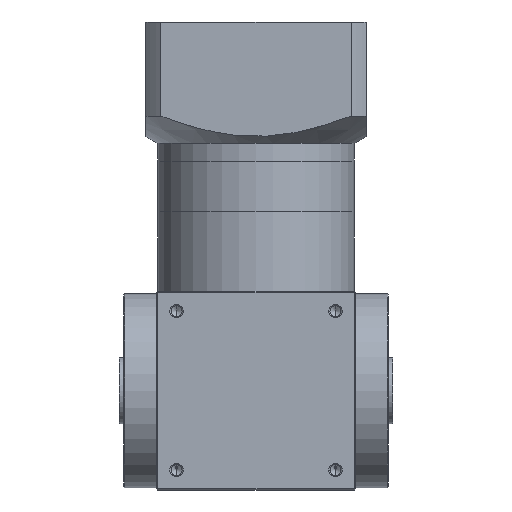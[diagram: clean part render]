
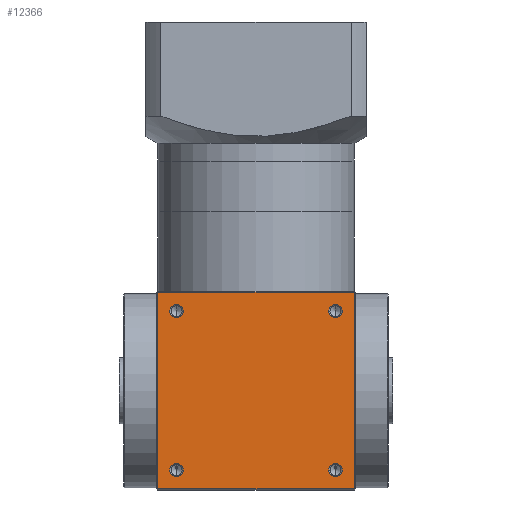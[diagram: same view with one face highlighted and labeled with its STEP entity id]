
A CAD part, front view. The second image highlights one B-rep face of the part: STEP entity #12366.
In plain terms, the highlighted planar face has unit normal (0, -1, 0).
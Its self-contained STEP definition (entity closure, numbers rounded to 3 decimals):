
#1385 = ORIENTED_EDGE ( 'NONE', *, *, #48946, .F. ) ;
#1802 = VERTEX_POINT ( 'NONE', #16034 ) ;
#2109 = DIRECTION ( 'NONE',  ( 0., 0., 1. ) ) ;
#2486 = DIRECTION ( 'NONE',  ( 0., -1., 0. ) ) ;
#2842 = CARTESIAN_POINT ( 'NONE',  ( 36., -45., 9. ) ) ;
#3289 = CARTESIAN_POINT ( 'NONE',  ( -36., -45., 84.025 ) ) ;
#3621 = AXIS2_PLACEMENT_3D ( 'NONE', #22493, #49412, #26561 ) ;
#3698 = ORIENTED_EDGE ( 'NONE', *, *, #40943, .F. ) ;
#3733 = DIRECTION ( 'NONE',  ( 0., -1., 0. ) ) ;
#3986 = AXIS2_PLACEMENT_3D ( 'NONE', #17484, #44821, #21579 ) ;
#3991 = CARTESIAN_POINT ( 'NONE',  ( -36., -45., 5.975 ) ) ;
#4646 = VERTEX_POINT ( 'NONE', #26321 ) ;
#5409 = CIRCLE ( 'NONE', #3621, 3.025 ) ;
#5810 = CARTESIAN_POINT ( 'NONE',  ( 36., -45., 84.025 ) ) ;
#6873 = DIRECTION ( 'NONE',  ( 0., 0., -1. ) ) ;
#8275 = DIRECTION ( 'NONE',  ( 0., 0., 1. ) ) ;
#9357 = EDGE_CURVE ( 'NONE', #35487, #31745, #11864, .T. ) ;
#10566 = VECTOR ( 'NONE', #11696, 1000. ) ;
#11027 = EDGE_CURVE ( 'NONE', #31745, #16082, #42221, .T. ) ;
#11649 = CARTESIAN_POINT ( 'NONE',  ( -45., -45., 89.5 ) ) ;
#11696 = DIRECTION ( 'NONE',  ( 1., 0., 0. ) ) ;
#11863 = CIRCLE ( 'NONE', #27680, 3.025 ) ;
#11864 = LINE ( 'NONE', #11649, #10566 ) ;
#12228 = CARTESIAN_POINT ( 'NONE',  ( -44.5, -45., 0.5 ) ) ;
#12366 = ADVANCED_FACE ( 'NONE', ( #36995, #37388, #37207, #36946, #36709 ), #19000, .F. ) ;
#12684 = AXIS2_PLACEMENT_3D ( 'NONE', #28023, #3733, #31901 ) ;
#12984 = AXIS2_PLACEMENT_3D ( 'NONE', #24272, #51024, #28304 ) ;
#13539 = ORIENTED_EDGE ( 'NONE', *, *, #9357, .F. ) ;
#13985 = CARTESIAN_POINT ( 'NONE',  ( -36., -45., 81. ) ) ;
#16034 = CARTESIAN_POINT ( 'NONE',  ( -36., -45., 77.975 ) ) ;
#16082 = VERTEX_POINT ( 'NONE', #20107 ) ;
#16134 = DIRECTION ( 'NONE',  ( 0., -1., 0. ) ) ;
#16615 = AXIS2_PLACEMENT_3D ( 'NONE', #20597, #18691, #2109 ) ;
#16914 = ORIENTED_EDGE ( 'NONE', *, *, #11027, .F. ) ;
#17048 = CARTESIAN_POINT ( 'NONE',  ( 44.5, -45., 90. ) ) ;
#17117 = DIRECTION ( 'NONE',  ( 0., 0., -1. ) ) ;
#17484 = CARTESIAN_POINT ( 'NONE',  ( 36., -45., 9. ) ) ;
#18039 = DIRECTION ( 'NONE',  ( 0., 0., -1. ) ) ;
#18691 = DIRECTION ( 'NONE',  ( 0., 1., 0. ) ) ;
#19000 = PLANE ( 'NONE',  #16615 ) ;
#20107 = CARTESIAN_POINT ( 'NONE',  ( 44.5, -45., 0.5 ) ) ;
#20597 = CARTESIAN_POINT ( 'NONE',  ( -45., -45., 90. ) ) ;
#20601 = VERTEX_POINT ( 'NONE', #3289 ) ;
#21046 = VERTEX_POINT ( 'NONE', #12228 ) ;
#21579 = DIRECTION ( 'NONE',  ( 0., 0., -1. ) ) ;
#22493 = CARTESIAN_POINT ( 'NONE',  ( -36., -45., 81. ) ) ;
#23222 = VECTOR ( 'NONE', #50987, 1000. ) ;
#23301 = CIRCLE ( 'NONE', #40673, 3.025 ) ;
#23330 = EDGE_LOOP ( 'NONE', ( #37938, #16914, #13539, #48378 ) ) ;
#23896 = CARTESIAN_POINT ( 'NONE',  ( 36., -45., 77.975 ) ) ;
#24074 = CARTESIAN_POINT ( 'NONE',  ( -45., -45., 0.5 ) ) ;
#24272 = CARTESIAN_POINT ( 'NONE',  ( 36., -45., 81. ) ) ;
#24347 = EDGE_CURVE ( 'NONE', #21046, #35487, #42051, .T. ) ;
#24560 = EDGE_CURVE ( 'NONE', #20601, #1802, #46188, .T. ) ;
#24740 = ORIENTED_EDGE ( 'NONE', *, *, #42497, .F. ) ;
#25618 = EDGE_CURVE ( 'NONE', #31694, #44692, #31863, .T. ) ;
#26003 = CARTESIAN_POINT ( 'NONE',  ( 36., -45., 5.975 ) ) ;
#26321 = CARTESIAN_POINT ( 'NONE',  ( 36., -45., 12.025 ) ) ;
#26561 = DIRECTION ( 'NONE',  ( 0., 0., -1. ) ) ;
#26725 = CARTESIAN_POINT ( 'NONE',  ( -36., -45., 9. ) ) ;
#27680 = AXIS2_PLACEMENT_3D ( 'NONE', #2842, #31044, #6873 ) ;
#27842 = CIRCLE ( 'NONE', #12984, 3.025 ) ;
#27851 = CIRCLE ( 'NONE', #12684, 3.025 ) ;
#28023 = CARTESIAN_POINT ( 'NONE',  ( 36., -45., 81. ) ) ;
#28235 = CIRCLE ( 'NONE', #3986, 3.025 ) ;
#28304 = DIRECTION ( 'NONE',  ( 0., 0., -1. ) ) ;
#28732 = CARTESIAN_POINT ( 'NONE',  ( -44.5, -45., 89.5 ) ) ;
#30693 = DIRECTION ( 'NONE',  ( 0., 0., -1. ) ) ;
#31044 = DIRECTION ( 'NONE',  ( 0., -1., 0. ) ) ;
#31694 = VERTEX_POINT ( 'NONE', #41754 ) ;
#31745 = VERTEX_POINT ( 'NONE', #41913 ) ;
#31863 = CIRCLE ( 'NONE', #33063, 3.025 ) ;
#31901 = DIRECTION ( 'NONE',  ( 0., 0., -1. ) ) ;
#31904 = VERTEX_POINT ( 'NONE', #23896 ) ;
#33063 = AXIS2_PLACEMENT_3D ( 'NONE', #39797, #16134, #43575 ) ;
#33861 = ORIENTED_EDGE ( 'NONE', *, *, #24560, .F. ) ;
#34265 = ORIENTED_EDGE ( 'NONE', *, *, #50158, .F. ) ;
#35487 = VERTEX_POINT ( 'NONE', #28732 ) ;
#36243 = CARTESIAN_POINT ( 'NONE',  ( -44.5, -45., 90. ) ) ;
#36709 = FACE_OUTER_BOUND ( 'NONE', #23330, .T. ) ;
#36946 = FACE_BOUND ( 'NONE', #44134, .T. ) ;
#36995 = FACE_BOUND ( 'NONE', #46775, .T. ) ;
#37207 = FACE_BOUND ( 'NONE', #41863, .T. ) ;
#37388 = FACE_BOUND ( 'NONE', #42669, .T. ) ;
#37938 = ORIENTED_EDGE ( 'NONE', *, *, #44662, .F. ) ;
#38013 = VERTEX_POINT ( 'NONE', #5810 ) ;
#38273 = LINE ( 'NONE', #24074, #23222 ) ;
#38548 = AXIS2_PLACEMENT_3D ( 'NONE', #13985, #41579, #18039 ) ;
#39584 = ORIENTED_EDGE ( 'NONE', *, *, #25618, .F. ) ;
#39797 = CARTESIAN_POINT ( 'NONE',  ( -36., -45., 9. ) ) ;
#40673 = AXIS2_PLACEMENT_3D ( 'NONE', #26725, #2486, #30693 ) ;
#40943 = EDGE_CURVE ( 'NONE', #1802, #20601, #5409, .T. ) ;
#41579 = DIRECTION ( 'NONE',  ( 0., -1., 0. ) ) ;
#41754 = CARTESIAN_POINT ( 'NONE',  ( -36., -45., 12.025 ) ) ;
#41863 = EDGE_LOOP ( 'NONE', ( #34265, #24740 ) ) ;
#41913 = CARTESIAN_POINT ( 'NONE',  ( 44.5, -45., 89.5 ) ) ;
#42001 = VECTOR ( 'NONE', #17117, 1000. ) ;
#42051 = LINE ( 'NONE', #36243, #43368 ) ;
#42154 = EDGE_CURVE ( 'NONE', #44692, #31694, #23301, .T. ) ;
#42221 = LINE ( 'NONE', #17048, #42001 ) ;
#42497 = EDGE_CURVE ( 'NONE', #4646, #48250, #28235, .T. ) ;
#42669 = EDGE_LOOP ( 'NONE', ( #3698, #33861 ) ) ;
#43368 = VECTOR ( 'NONE', #8275, 1000. ) ;
#43575 = DIRECTION ( 'NONE',  ( 0., 0., -1. ) ) ;
#44134 = EDGE_LOOP ( 'NONE', ( #46336, #39584 ) ) ;
#44662 = EDGE_CURVE ( 'NONE', #16082, #21046, #38273, .T. ) ;
#44692 = VERTEX_POINT ( 'NONE', #3991 ) ;
#44821 = DIRECTION ( 'NONE',  ( 0., -1., 0. ) ) ;
#45856 = ORIENTED_EDGE ( 'NONE', *, *, #48076, .F. ) ;
#46188 = CIRCLE ( 'NONE', #38548, 3.025 ) ;
#46336 = ORIENTED_EDGE ( 'NONE', *, *, #42154, .F. ) ;
#46775 = EDGE_LOOP ( 'NONE', ( #1385, #45856 ) ) ;
#48076 = EDGE_CURVE ( 'NONE', #38013, #31904, #27842, .T. ) ;
#48250 = VERTEX_POINT ( 'NONE', #26003 ) ;
#48378 = ORIENTED_EDGE ( 'NONE', *, *, #24347, .F. ) ;
#48946 = EDGE_CURVE ( 'NONE', #31904, #38013, #27851, .T. ) ;
#49412 = DIRECTION ( 'NONE',  ( 0., -1., 0. ) ) ;
#50158 = EDGE_CURVE ( 'NONE', #48250, #4646, #11863, .T. ) ;
#50987 = DIRECTION ( 'NONE',  ( -1., 0., 0. ) ) ;
#51024 = DIRECTION ( 'NONE',  ( 0., -1., 0. ) ) ;
